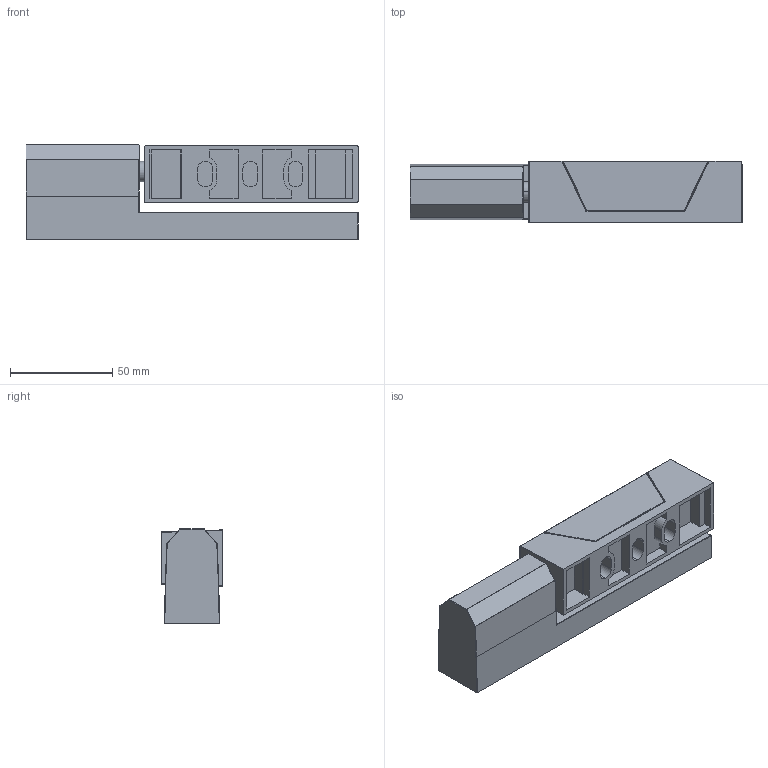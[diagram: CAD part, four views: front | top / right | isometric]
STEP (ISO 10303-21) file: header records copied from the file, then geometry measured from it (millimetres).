
FILE_DESCRIPTION (( 'STEP AP203' ), '1' );
FILE_NAME ('B-1132.STEP', '2015-11-18T05:35:08', ( '' ), ( '' ), 'SwSTEP 2.0', 'SolidWorks 2014', '' );
FILE_SCHEMA (( 'CONFIG_CONTROL_DESIGN' ));
Length unit declared in the file: millimetre
Products named in the file (1): B-1132
Bounding box: 162 x 30 x 46 mm (x, y, z)
Volume: 123177.6 mm3; surface area: 47847.7 mm2
Topology: 3 solids, 3 shells, 291 faces, 754 edges, 476 vertices
Faces by surface type: plane 161, cylinder 86, cone 18, sphere 18, torus 8
Entity records: 8913 total; most frequent: CARTESIAN_POINT 1784, ORIENTED_EDGE 1500, DIRECTION 1458, EDGE_CURVE 750, AXIS2_PLACEMENT_3D 494, VERTEX_POINT 476, LINE 470, VECTOR 470
